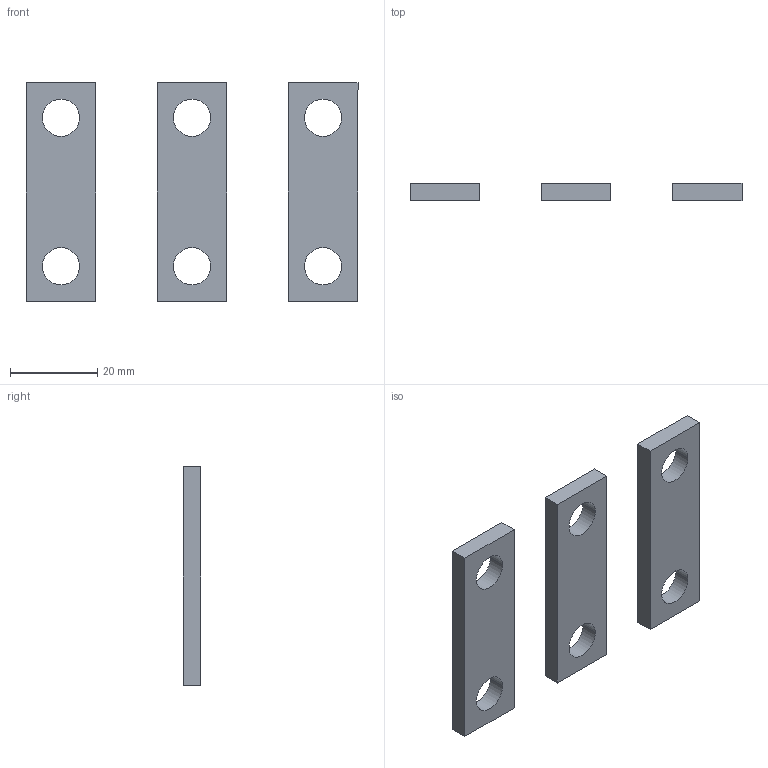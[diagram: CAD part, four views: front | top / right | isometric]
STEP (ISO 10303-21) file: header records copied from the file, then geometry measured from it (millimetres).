
FILE_DESCRIPTION (( 'STEP AP214' ), '1' );
FILE_NAME ('TEM5E-GP-125-160.STEP', '2026-01-13T09:47:19', ( '' ), ( '' ), 'SwSTEP 2.0', 'SolidWorks 2024', '' );
FILE_SCHEMA (( 'AUTOMOTIVE_DESIGN' ));
Length unit declared in the file: millimetre
Products named in the file (2): TEM5E-GP-125-160(Straight).stp; TEM5E-GP-125-160
Assembly tree (3 placements, depth 2):
  TEM5E-GP-125-160
    TEM5E-GP-125-160(Straight).stp  x3
Bounding box: 76 x 4 x 50 mm (x, y, z)
Volume: 8238.1 mm3; surface area: 6343.9 mm2
Topology: 3 solids, 3 shells, 30 faces, 72 edges, 48 vertices
Faces by surface type: plane 18, cylinder 12
Entity records: 375 total; most frequent: DIRECTION 64, CARTESIAN_POINT 56, ORIENTED_EDGE 48, AXIS2_PLACEMENT_3D 24, EDGE_CURVE 24, VECTOR 16, VERTEX_POINT 16, LINE 16
